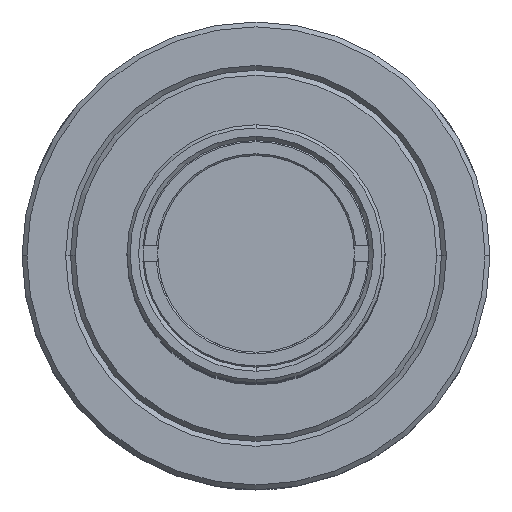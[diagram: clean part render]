
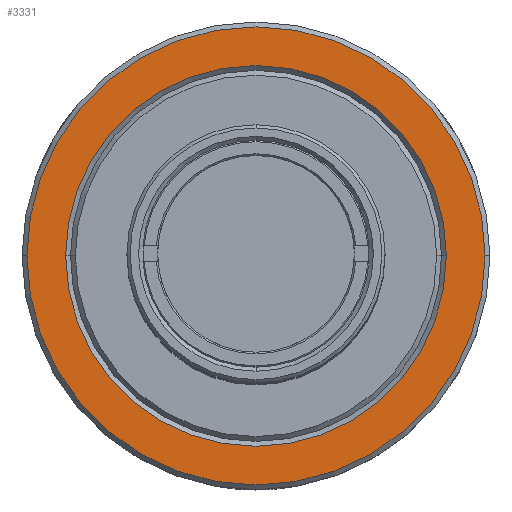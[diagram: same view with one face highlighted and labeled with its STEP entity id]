
A CAD part, top view. The second image highlights one B-rep face of the part: STEP entity #3331.
In plain terms, the highlighted planar face has unit normal (0, 0, 1).
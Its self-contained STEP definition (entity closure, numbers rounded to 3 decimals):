
#924 = CARTESIAN_POINT ( 'NONE',  ( 0., 0., -41.71 ) ) ;
#925 = CIRCLE ( 'NONE', #944, 14.2 ) ;
#942 = DIRECTION ( 'NONE',  ( -1., 0., 0. ) ) ;
#943 = DIRECTION ( 'NONE',  ( 0., 0., 1. ) ) ;
#944 = AXIS2_PLACEMENT_3D ( 'NONE', #924, #943, #942 ) ;
#1320 = DIRECTION ( 'NONE',  ( 0., 0., -1. ) ) ;
#1338 = AXIS2_PLACEMENT_3D ( 'NONE', #1358, #1341, #1401 ) ;
#1341 = DIRECTION ( 'NONE',  ( 0., 0., -1. ) ) ;
#1356 = DIRECTION ( 'NONE',  ( -1., 0., 0. ) ) ;
#1358 = CARTESIAN_POINT ( 'NONE',  ( 0., 11.5, -41.71 ) ) ;
#1360 = AXIS2_PLACEMENT_3D ( 'NONE', #1402, #1320, #1356 ) ;
#1386 = PLANE ( 'NONE',  #1338 ) ;
#1401 = DIRECTION ( 'NONE',  ( -1., 0., 0. ) ) ;
#1402 = CARTESIAN_POINT ( 'NONE',  ( 0., 0., -41.71 ) ) ;
#1403 = CIRCLE ( 'NONE', #1360, 11.8 ) ;
#1404 = FACE_BOUND ( 'NONE', #3332, .T. ) ;
#1407 = FACE_OUTER_BOUND ( 'NONE', #3136, .T. ) ;
#2489 = VERTEX_POINT ( 'NONE', #4290 ) ;
#2493 = EDGE_CURVE ( 'NONE', #2489, #2519, #4285, .T. ) ;
#2519 = VERTEX_POINT ( 'NONE', #4324 ) ;
#2532 = EDGE_CURVE ( 'NONE', #2534, #2557, #4206, .T. ) ;
#2534 = VERTEX_POINT ( 'NONE', #4257 ) ;
#2557 = VERTEX_POINT ( 'NONE', #4293 ) ;
#3136 = EDGE_LOOP ( 'NONE', ( #3330, #3140 ) ) ;
#3137 = ORIENTED_EDGE ( 'NONE', *, *, #3334, .T. ) ;
#3138 = EDGE_CURVE ( 'NONE', #2557, #2534, #925, .T. ) ;
#3140 = ORIENTED_EDGE ( 'NONE', *, *, #2532, .T. ) ;
#3329 = ORIENTED_EDGE ( 'NONE', *, *, #2493, .T. ) ;
#3330 = ORIENTED_EDGE ( 'NONE', *, *, #3138, .T. ) ;
#3331 = ADVANCED_FACE ( 'NONE', ( #1404, #1407 ), #1386, .F. ) ;
#3332 = EDGE_LOOP ( 'NONE', ( #3329, #3137 ) ) ;
#3334 = EDGE_CURVE ( 'NONE', #2519, #2489, #1403, .T. ) ;
#4206 = CIRCLE ( 'NONE', #4211, 14.2 ) ;
#4211 = AXIS2_PLACEMENT_3D ( 'NONE', #4255, #4254, #4253 ) ;
#4253 = DIRECTION ( 'NONE',  ( -1., 0., 0. ) ) ;
#4254 = DIRECTION ( 'NONE',  ( 0., 0., 1. ) ) ;
#4255 = CARTESIAN_POINT ( 'NONE',  ( 0., 0., -41.71 ) ) ;
#4257 = CARTESIAN_POINT ( 'NONE',  ( 14.2, 0., -41.71 ) ) ;
#4271 = DIRECTION ( 'NONE',  ( -1., 0., 0. ) ) ;
#4272 = DIRECTION ( 'NONE',  ( 0., 0., -1. ) ) ;
#4273 = CARTESIAN_POINT ( 'NONE',  ( 0., 0., -41.71 ) ) ;
#4280 = AXIS2_PLACEMENT_3D ( 'NONE', #4273, #4272, #4271 ) ;
#4285 = CIRCLE ( 'NONE', #4280, 11.8 ) ;
#4290 = CARTESIAN_POINT ( 'NONE',  ( 11.8, 0., -41.71 ) ) ;
#4293 = CARTESIAN_POINT ( 'NONE',  ( -14.2, 0., -41.71 ) ) ;
#4324 = CARTESIAN_POINT ( 'NONE',  ( -11.8, 0., -41.71 ) ) ;
